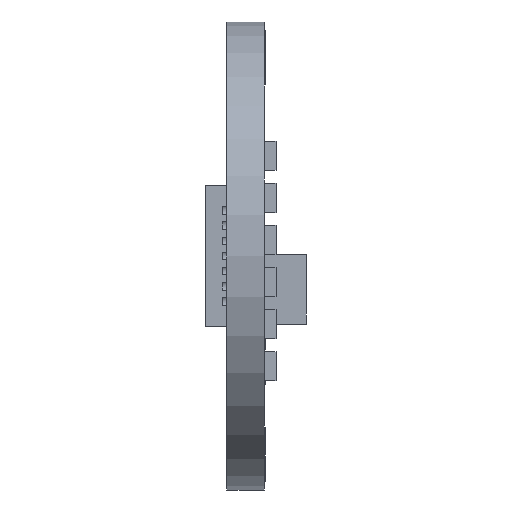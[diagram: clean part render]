
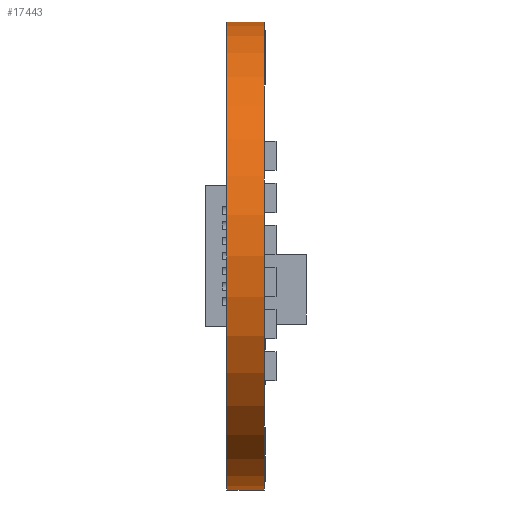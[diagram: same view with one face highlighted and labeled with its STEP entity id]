
A CAD part, left-side view. The second image highlights one B-rep face of the part: STEP entity #17443.
In plain terms, the highlighted cylindrical face has radius 10 mm (diameter 20 mm), a partial arc.
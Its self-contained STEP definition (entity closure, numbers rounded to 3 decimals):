
#413 = VERTEX_POINT ( 'NONE', #13379 ) ;
#937 = DIRECTION ( 'NONE',  ( 0., 0., -1. ) ) ;
#962 = EDGE_CURVE ( 'NONE', #6664, #4718, #11320, .T. ) ;
#1048 = EDGE_CURVE ( 'NONE', #4718, #3777, #14592, .T. ) ;
#2497 = DIRECTION ( 'NONE',  ( 0., -1., 0. ) ) ;
#2724 = ORIENTED_EDGE ( 'NONE', *, *, #4797, .F. ) ;
#3335 = CARTESIAN_POINT ( 'NONE',  ( 3.001, -0.01, -13. ) ) ;
#3777 = VERTEX_POINT ( 'NONE', #3335 ) ;
#4134 = AXIS2_PLACEMENT_3D ( 'NONE', #11692, #13312, #15020 ) ;
#4718 = VERTEX_POINT ( 'NONE', #5685 ) ;
#4797 = EDGE_CURVE ( 'NONE', #6664, #413, #16207, .T. ) ;
#5321 = CARTESIAN_POINT ( 'NONE',  ( 3.001, -1.61, 7. ) ) ;
#5403 = EDGE_LOOP ( 'NONE', ( #19753, #2724, #12860, #8571 ) ) ;
#5685 = CARTESIAN_POINT ( 'NONE',  ( 3.001, -0.01, 7. ) ) ;
#6664 = VERTEX_POINT ( 'NONE', #20310 ) ;
#7100 = VECTOR ( 'NONE', #15173, 1000. ) ;
#8571 = ORIENTED_EDGE ( 'NONE', *, *, #1048, .T. ) ;
#8584 = DIRECTION ( 'NONE',  ( 0., 0., -1. ) ) ;
#8778 = CARTESIAN_POINT ( 'NONE',  ( 3.001, -1.61, -3. ) ) ;
#11320 = LINE ( 'NONE', #5321, #7100 ) ;
#11641 = LINE ( 'NONE', #12970, #15446 ) ;
#11692 = CARTESIAN_POINT ( 'NONE',  ( 3.001, -1.61, -3. ) ) ;
#12860 = ORIENTED_EDGE ( 'NONE', *, *, #962, .T. ) ;
#12970 = CARTESIAN_POINT ( 'NONE',  ( 3.001, -1.61, -13. ) ) ;
#13312 = DIRECTION ( 'NONE',  ( 0., 1., 0. ) ) ;
#13379 = CARTESIAN_POINT ( 'NONE',  ( 3.001, -1.61, -13. ) ) ;
#13998 = CARTESIAN_POINT ( 'NONE',  ( 3.001, -0.01, -3. ) ) ;
#14047 = AXIS2_PLACEMENT_3D ( 'NONE', #8778, #18150, #8584 ) ;
#14592 = CIRCLE ( 'NONE', #17768, 10. ) ;
#15020 = DIRECTION ( 'NONE',  ( 0., 0., 1. ) ) ;
#15173 = DIRECTION ( 'NONE',  ( 0., 1., 0. ) ) ;
#15446 = VECTOR ( 'NONE', #16220, 1000. ) ;
#16207 = CIRCLE ( 'NONE', #14047, 10. ) ;
#16220 = DIRECTION ( 'NONE',  ( 0., 1., 0. ) ) ;
#17298 = EDGE_CURVE ( 'NONE', #413, #3777, #11641, .T. ) ;
#17421 = CYLINDRICAL_SURFACE ( 'NONE', #4134, 10. ) ;
#17443 = ADVANCED_FACE ( 'NONE', ( #19401 ), #17421, .T. ) ;
#17768 = AXIS2_PLACEMENT_3D ( 'NONE', #13998, #2497, #937 ) ;
#18150 = DIRECTION ( 'NONE',  ( 0., -1., 0. ) ) ;
#19401 = FACE_OUTER_BOUND ( 'NONE', #5403, .T. ) ;
#19753 = ORIENTED_EDGE ( 'NONE', *, *, #17298, .F. ) ;
#20310 = CARTESIAN_POINT ( 'NONE',  ( 3.001, -1.61, 7. ) ) ;
